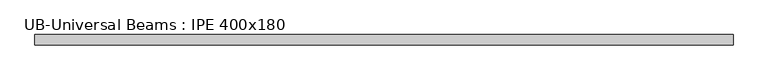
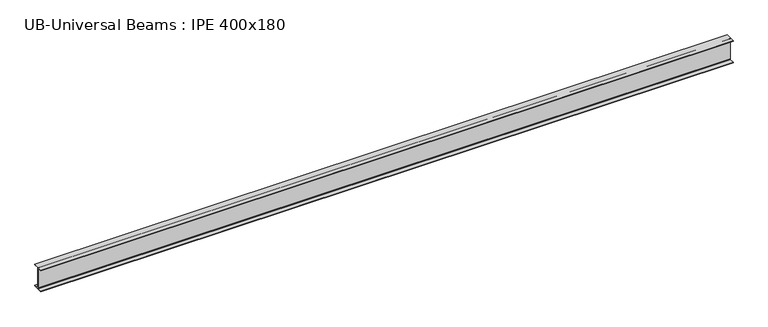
"""IFC4 building model written with IfcOpenShell, lengths in millimetres: beam geometry, UB-Universal Beams : IPE 400x180."""

from ifc_helpers import new_model, si_unit, point, frame, frame_2d, origin, place, context, project, spatial, polyline, circle_curve, trimmed, segment, composite_curve, outline, extrude, source, transform, mapped, element, save


def ub_universal_beams_ipe_400x180_a54351ab(model_context):
    return source(origin(), model_context, "Body", "SweptSolid", [
        extrude(outline(composite_curve([segment(polyline([(90.0, -189.8), (90.0, -200.0), (-90.0, -200.0), (-90.0, -189.8), (-11.9, -189.8)]), True, "CONTINUOUS"), segment(trimmed(circle_curve(frame_2d((-11.9, -180.9)), 8.9), [point((-11.9, -189.8))], [point((-3.0, -180.9))], True, "CARTESIAN"), True, "CONTINUOUS"), segment(polyline([(-3.0, -180.9), (-3.0, 180.9)]), True, "CONTINUOUS"), segment(trimmed(circle_curve(frame_2d((-11.9, 180.9)), 8.9), [point((-3.0, 180.9))], [point((-11.9, 189.8))], True, "CARTESIAN"), True, "CONTINUOUS"), segment(polyline([(-11.9, 189.8), (-90.0, 189.8), (-90.0, 200.0), (90.0, 200.0), (90.0, 189.8), (11.9, 189.8)]), True, "CONTINUOUS"), segment(trimmed(circle_curve(frame_2d((11.9, 180.9)), 8.9), [point((11.9, 189.8))], [point((3.0, 180.9))], True, "CARTESIAN"), True, "CONTINUOUS"), segment(polyline([(3.0, 180.9), (3.0, -180.9)]), True, "CONTINUOUS"), segment(trimmed(circle_curve(frame_2d((11.9, -180.9)), 8.9), [point((3.0, -180.9))], [point((11.9, -189.8))], True, "CARTESIAN"), True, "CONTINUOUS"), segment(polyline([(11.9, -189.8), (90.0, -189.8)]), True, "CONTINUOUS")], self_intersect=False)), frame((-6014.9, 0.0, 0.0), z_axis=(1.0, 0.0, 0.0), x_axis=(0.0, 1.0, 0.0)), (0.0, 0.0, 1.0), 12014.9),
    ])


if __name__ == "__main__":
    model = new_model("IFC4")
    model_context = context("Model", 3, world=origin())
    ifc_project = project(units=[si_unit("LENGTHUNIT", "METRE", prefix="MILLI")], contexts=[model_context])
    site = spatial("IfcSite", under=ifc_project)
    building = spatial("IfcBuilding", under=site)
    placement = place(None, origin())
    ub_universal_beams_ipe_400x180_shape = ub_universal_beams_ipe_400x180_a54351ab(model_context)
    element("IfcBeam", 1, ObjectType="UB-Universal Beams : IPE 400x180", at=placement, inside=building, context=model_context, shape_type="MappedRepresentation", body=[
        mapped(ub_universal_beams_ipe_400x180_shape, transform((0.0, 0.0, 0.0), x_axis=(1.0, 0.0, 0.0), y_axis=(0.0, 1.0, 0.0), z_axis=(0.0, 0.0, 1.0))),
    ])
    save(model, "model.ifc")
